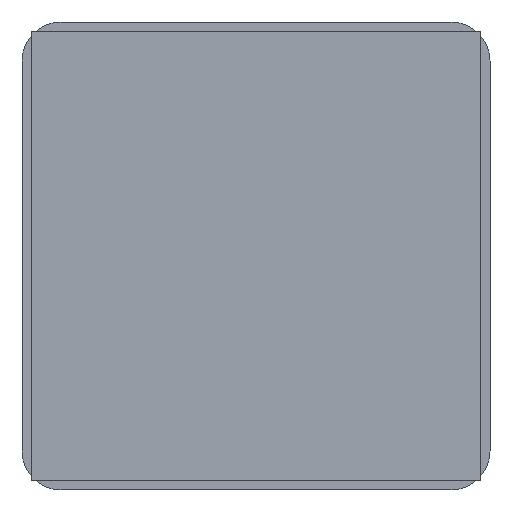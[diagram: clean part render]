
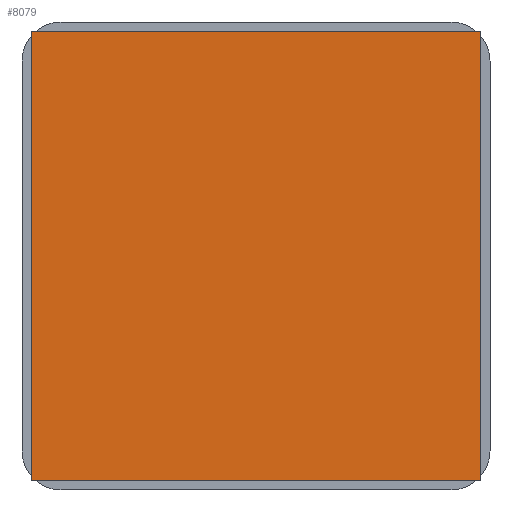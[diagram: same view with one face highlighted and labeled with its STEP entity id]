
A CAD part, front view. The second image highlights one B-rep face of the part: STEP entity #8079.
In plain terms, the highlighted planar face has unit normal (0, -1, 0).
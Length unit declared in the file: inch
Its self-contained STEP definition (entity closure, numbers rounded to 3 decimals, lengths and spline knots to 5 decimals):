
#156 = CARTESIAN_POINT ( 'NONE',  ( -0.74803, -0.005, 0.74803 ) ) ;
#846 = VECTOR ( 'NONE', #5602, 39.37008 ) ;
#914 = DIRECTION ( 'NONE',  ( 0., 0., 1. ) ) ;
#1038 = FACE_OUTER_BOUND ( 'NONE', #4263, .T. ) ;
#1260 = EDGE_CURVE ( 'NONE', #2252, #2319, #3075, .T. ) ;
#1327 = ORIENTED_EDGE ( 'NONE', *, *, #8510, .F. ) ;
#1901 = VECTOR ( 'NONE', #8488, 39.37008 ) ;
#1930 = LINE ( 'NONE', #4855, #4505 ) ;
#2056 = DIRECTION ( 'NONE',  ( 1., 0., 0. ) ) ;
#2222 = LINE ( 'NONE', #2299, #1901 ) ;
#2252 = VERTEX_POINT ( 'NONE', #6070 ) ;
#2299 = CARTESIAN_POINT ( 'NONE',  ( -0.74803, -0.005, -0.74803 ) ) ;
#2305 = EDGE_CURVE ( 'NONE', #5945, #2252, #2222, .T. ) ;
#2319 = VERTEX_POINT ( 'NONE', #156 ) ;
#2402 = CARTESIAN_POINT ( 'NONE',  ( -0.74803, -0.005, 0.74803 ) ) ;
#2443 = CARTESIAN_POINT ( 'NONE',  ( 0.74803, -0.005, 0.74803 ) ) ;
#2633 = ORIENTED_EDGE ( 'NONE', *, *, #2305, .F. ) ;
#3075 = LINE ( 'NONE', #4407, #5063 ) ;
#3154 = ORIENTED_EDGE ( 'NONE', *, *, #1260, .F. ) ;
#4012 = AXIS2_PLACEMENT_3D ( 'NONE', #2402, #4474, #8730 ) ;
#4243 = LINE ( 'NONE', #6426, #846 ) ;
#4263 = EDGE_LOOP ( 'NONE', ( #3154, #2633, #6829, #1327 ) ) ;
#4407 = CARTESIAN_POINT ( 'NONE',  ( -0.74803, -0.005, -0.74803 ) ) ;
#4474 = DIRECTION ( 'NONE',  ( 0., 1., 0. ) ) ;
#4505 = VECTOR ( 'NONE', #2056, 39.37008 ) ;
#4855 = CARTESIAN_POINT ( 'NONE',  ( -0.74803, -0.005, 0.74803 ) ) ;
#4913 = CARTESIAN_POINT ( 'NONE',  ( 0.74803, -0.005, -0.74803 ) ) ;
#5063 = VECTOR ( 'NONE', #914, 39.37008 ) ;
#5176 = VERTEX_POINT ( 'NONE', #2443 ) ;
#5602 = DIRECTION ( 'NONE',  ( 0., 0., -1. ) ) ;
#5945 = VERTEX_POINT ( 'NONE', #4913 ) ;
#6070 = CARTESIAN_POINT ( 'NONE',  ( -0.74803, -0.005, -0.74803 ) ) ;
#6426 = CARTESIAN_POINT ( 'NONE',  ( 0.74803, -0.005, -0.74803 ) ) ;
#6578 = PLANE ( 'NONE',  #4012 ) ;
#6829 = ORIENTED_EDGE ( 'NONE', *, *, #8981, .F. ) ;
#8079 = ADVANCED_FACE ( 'NONE', ( #1038 ), #6578, .F. ) ;
#8488 = DIRECTION ( 'NONE',  ( -1., 0., 0. ) ) ;
#8510 = EDGE_CURVE ( 'NONE', #2319, #5176, #1930, .T. ) ;
#8730 = DIRECTION ( 'NONE',  ( 0., 0., 1. ) ) ;
#8981 = EDGE_CURVE ( 'NONE', #5176, #5945, #4243, .T. ) ;
